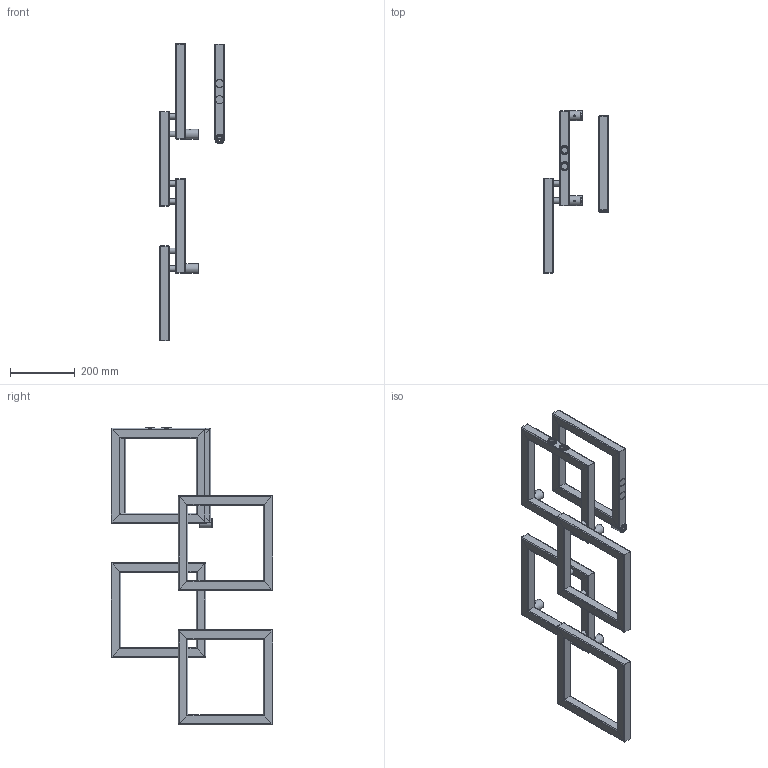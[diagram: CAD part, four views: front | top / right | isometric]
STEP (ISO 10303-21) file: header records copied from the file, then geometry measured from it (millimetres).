
FILE_DESCRIPTION( ( 'Unknown' ), '1' );
FILE_NAME( 'V:/DESIGN PROGRAM/LOCO mini/STP/LOCO 4 mini LEWY.stp', 'Unknown', ( 'Unknown' ), ( 'Unknown' ), 'PSStep 10.1', 'Unknown', ' ' );
FILE_SCHEMA( ( 'AUTOMOTIVE_DESIGN { 1 0 10303 214 1 1 1 1 }' ) );
Length unit declared in the file: millimetre
Products named in the file (28): Ramka 3; Ramka 2; Assem1; Ramka 1 LEWY; Mocowanie L40; MOCOWANIE L40-01; MOCOWANIE FASOLKA; MOCOWANIE L40-03; czêœæ 3; czêœæ 1; czêœæ 5; czêœæ 6; czêœæ 3-oa6; czêœæ 1-oa7; czêœæ 2; czêœæ 4; czêœæ 3-oa8; czêœæ 3-oa9; czêœæ 1-oa10; czêœæ 2-oa11; ｳｹcznik ; ｳｹcznik -oa0; ｳｹcznik -oa1; ｳｹcznik -oa2; ｳｹcznik -oa3; ｳｹcznik -oa4; Zaslepka fi 30 z gwintem ; Zaslepka fi 30 z gwintem -oa5
Bounding box: 200.65 x 500 x 918 mm (x, y, z)
Volume: 1859277.4 mm3; surface area: 2425757.9 mm2
Topology: 74 solids, 74 shells, 1032 faces, 2634 edges, 1760 vertices
Faces by surface type: plane 526, cylinder 468, cone 30, torus 8
Full cylindrical faces by diameter (mm): 4.917 x6, 12.5 x12, 15.5 x12, 16.3 x12, 16.5 x28, 17 x6, 17.2 x12, 18.631 x4, 20 x6, 22 x6, 22.7 x6, 23 x6, 25 x4, 25.25 x6, 29 x4, 30 x6
Entity records: 12413 total; most frequent: CARTESIAN_POINT 1761, DIRECTION 1700, ORIENTED_EDGE 1422, EDGE_CURVE 711, AXIS2_PLACEMENT_3D 650, VERTEX_POINT 507, EDGE_LOOP 452, LINE 400
